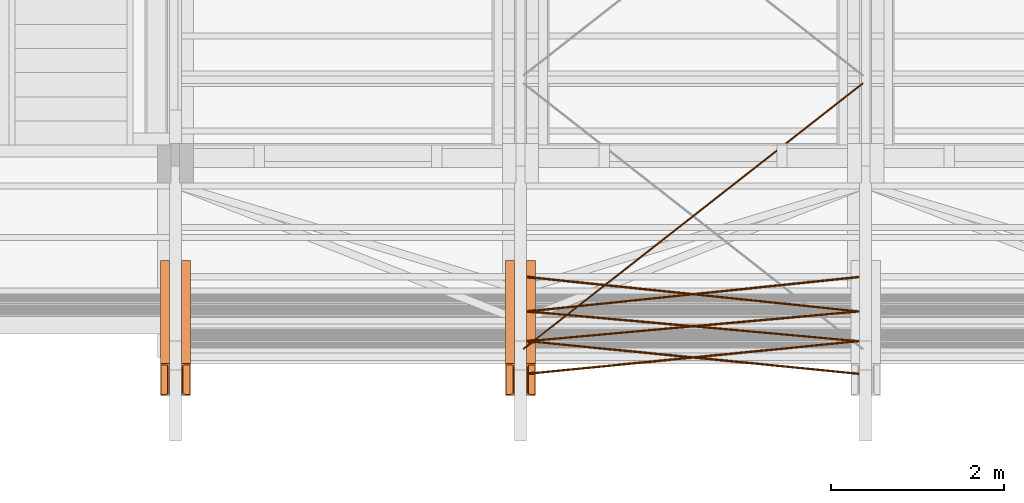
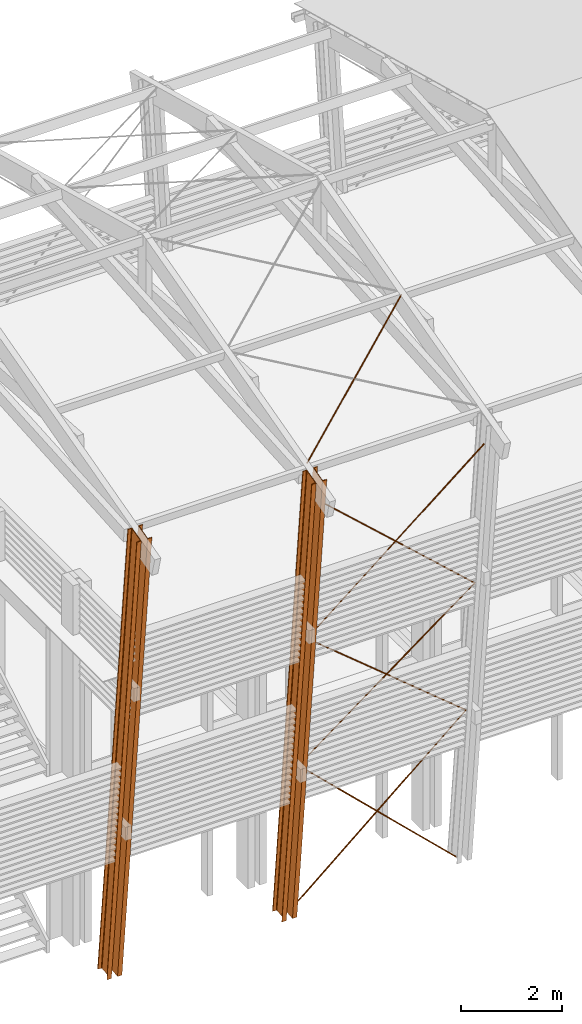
# One storey, part 35 of 48: 11 proxies.
"""IFC2X3 building model written with IfcOpenShell, lengths in metres."""

from ifc_helpers import new_model, si_unit, direction, frame, origin_with_axes, place, context, subcontext, project, spatial, faceted_brep, material, element, save


model = new_model("IFC2X3")

# Units and contexts
model_context = context("Model", 3, precision=1e-06, world=origin_with_axes(), true_north=direction((0.0, 1.0, 0.0)))
body_context = subcontext(model_context, "Body", "Model", "MODEL_VIEW")
ifc_project = project(units=[si_unit("LENGTHUNIT", "METRE"), si_unit("AREAUNIT", "SQUARE_METRE"), si_unit("VOLUMEUNIT", "CUBIC_METRE"), si_unit("PLANEANGLEUNIT", "RADIAN")], contexts=[model_context])

# Site, building, storey
site_placement = place(None, origin_with_axes())
site = spatial("IfcSite", under=ifc_project, at=site_placement, CompositionType="ELEMENT")
building_placement = place(site_placement, origin_with_axes())
building = spatial("IfcBuilding", under=site, at=building_placement, Name="Building 1", CompositionType="ELEMENT")
storey_placement = place(building_placement, origin_with_axes())
storey = spatial("IfcBuildingStorey", under=building, at=storey_placement, Name="Storey 1", CompositionType="ELEMENT", Elevation=0.0)

# Proxies
ifc_material = material(Name="Acier")
proxy_1_placement = place(storey_placement, frame((33.4057441, -195.1364145, 4.089), z_axis=(0.6523288, -0.0792259, 0.753784), x_axis=(-0.7579361, -0.0681869, 0.6487553)))
element("IfcBuildingElementProxy", 1, at=proxy_1_placement, inside=storey, material=ifc_material, Name="CVLP", context=body_context, shape_type="Brep", body=[
    faceted_brep([(5.0558353, -0.0093969, 0.0034202), (0.0, -0.01, 0.0), (5.0558353, -0.01, 0.0), (0.0, -0.0093969, -0.0034202), (5.0558353, -0.0093969, -0.0034202), (0.0, -0.0076604, -0.0064279), (5.0558353, -0.0076604, -0.0064279), (0.0, -0.005, -0.0086603), (5.0558353, -0.005, -0.0086603), (0.0, -0.0017365, -0.0098481), (5.0558353, -0.0017365, -0.0098481), (0.0, 0.0017365, -0.0098481), (5.0558353, 0.0017365, -0.0098481), (0.0, 0.005, -0.0086603), (5.0558353, 0.005, -0.0086603), (0.0, 0.0076604, -0.0064279), (5.0558353, 0.0076604, -0.0064279), (0.0, 0.0093969, -0.0034202), (5.0558353, 0.0093969, -0.0034202), (0.0, 0.01, 0.0), (5.0558353, 0.01, 0.0), (0.0, 0.0093969, 0.0034202), (5.0558353, 0.0093969, 0.0034202), (0.0, 0.0076604, 0.0064279), (5.0558353, 0.0076604, 0.0064279), (0.0, 0.005, 0.0086603), (5.0558353, 0.005, 0.0086603), (0.0, 0.0017365, 0.0098481), (5.0558353, 0.0017365, 0.0098481), (0.0, -0.0017365, 0.0098481), (5.0558353, -0.0017365, 0.0098481), (0.0, -0.005, 0.0086603), (5.0558353, -0.005, 0.0086603), (0.0, -0.0076604, 0.0064279), (5.0558353, -0.0076604, 0.0064279), (0.0, -0.0093969, 0.0034202)], [[[0, 1, 2]], [[2, 1, 3]], [[2, 3, 4]], [[4, 3, 5]], [[4, 5, 6]], [[6, 5, 7]], [[6, 7, 8]], [[8, 7, 9]], [[8, 9, 10]], [[10, 9, 11]], [[10, 11, 12]], [[12, 11, 13]], [[12, 13, 14]], [[14, 13, 15]], [[14, 15, 16]], [[16, 15, 17]], [[16, 17, 18]], [[18, 17, 19]], [[18, 19, 20]], [[20, 19, 21]], [[20, 21, 22]], [[22, 21, 23]], [[22, 23, 24]], [[24, 23, 25]], [[24, 25, 26]], [[26, 25, 27]], [[26, 27, 28]], [[28, 27, 29]], [[28, 29, 30]], [[30, 29, 31]], [[30, 31, 32]], [[32, 31, 33]], [[32, 33, 34]], [[34, 33, 35]], [[34, 35, 0]], [[0, 35, 1]], [[10, 12, 8]], [[8, 12, 14]], [[8, 14, 6]], [[6, 14, 16]], [[6, 16, 4]], [[4, 16, 18]], [[4, 18, 2]], [[2, 18, 20]], [[2, 20, 0]], [[0, 20, 22]], [[0, 22, 34]], [[34, 22, 24]], [[34, 24, 32]], [[32, 24, 26]], [[32, 26, 30]], [[30, 26, 28]], [[29, 27, 31]], [[31, 27, 25]], [[31, 25, 33]], [[33, 25, 23]], [[33, 23, 35]], [[35, 23, 21]], [[35, 21, 1]], [[1, 21, 19]], [[1, 19, 3]], [[3, 19, 17]], [[3, 17, 5]], [[5, 17, 15]], [[5, 15, 7]], [[7, 15, 13]], [[7, 13, 9]], [[9, 13, 11]]]),
])
proxy_2_placement = place(storey_placement, frame((33.4057433, -195.4811564, 7.369), z_axis=(0.6859491, -0.0760601, 0.7236634), x_axis=(-0.7276496, -0.0717012, 0.6821914)))
element("IfcBuildingElementProxy", 2, at=proxy_2_placement, inside=storey, material=ifc_material, Name="CVLP", context=body_context, shape_type="Brep", body=[
    faceted_brep([(5.2662712, 0.0093969, -0.0034202), (0.0, 0.01, 0.0), (5.2662712, 0.01, 0.0), (0.0, 0.0093969, 0.0034202), (5.2662712, 0.0093969, 0.0034202), (0.0, 0.0076604, 0.0064279), (5.2662712, 0.0076604, 0.0064279), (0.0, 0.005, 0.0086603), (5.2662712, 0.005, 0.0086603), (0.0, 0.0017365, 0.0098481), (5.2662712, 0.0017365, 0.0098481), (0.0, -0.0017365, 0.0098481), (5.2662712, -0.0017365, 0.0098481), (0.0, -0.005, 0.0086603), (5.2662712, -0.005, 0.0086603), (0.0, -0.0076604, 0.0064279), (5.2662712, -0.0076604, 0.0064279), (0.0, -0.0093969, 0.0034202), (5.2662712, -0.0093969, 0.0034202), (0.0, -0.01, 0.0), (5.2662712, -0.01, 0.0), (0.0, -0.0093969, -0.0034202), (5.2662712, -0.0093969, -0.0034202), (0.0, -0.0076604, -0.0064279), (5.2662712, -0.0076604, -0.0064279), (0.0, -0.005, -0.0086603), (5.2662712, -0.005, -0.0086603), (0.0, -0.0017365, -0.0098481), (5.2662712, -0.0017365, -0.0098481), (0.0, 0.0017365, -0.0098481), (5.2662712, 0.0017365, -0.0098481), (0.0, 0.005, -0.0086603), (5.2662712, 0.005, -0.0086603), (0.0, 0.0076604, -0.0064279), (5.2662712, 0.0076604, -0.0064279), (0.0, 0.0093969, -0.0034202)], [[[0, 1, 2]], [[2, 1, 3]], [[2, 3, 4]], [[4, 3, 5]], [[4, 5, 6]], [[6, 5, 7]], [[6, 7, 8]], [[8, 7, 9]], [[8, 9, 10]], [[10, 9, 11]], [[10, 11, 12]], [[12, 11, 13]], [[12, 13, 14]], [[14, 13, 15]], [[14, 15, 16]], [[16, 15, 17]], [[16, 17, 18]], [[18, 17, 19]], [[18, 19, 20]], [[20, 19, 21]], [[20, 21, 22]], [[22, 21, 23]], [[22, 23, 24]], [[24, 23, 25]], [[24, 25, 26]], [[26, 25, 27]], [[26, 27, 28]], [[28, 27, 29]], [[28, 29, 30]], [[30, 29, 31]], [[30, 31, 32]], [[32, 31, 33]], [[32, 33, 34]], [[34, 33, 35]], [[34, 35, 0]], [[0, 35, 1]], [[10, 12, 8]], [[8, 12, 14]], [[8, 14, 6]], [[6, 14, 16]], [[6, 16, 4]], [[4, 16, 18]], [[4, 18, 2]], [[2, 18, 20]], [[2, 20, 0]], [[0, 20, 22]], [[0, 22, 34]], [[34, 22, 24]], [[34, 24, 32]], [[32, 24, 26]], [[32, 26, 30]], [[30, 26, 28]], [[29, 27, 31]], [[31, 27, 25]], [[31, 25, 33]], [[33, 25, 23]], [[33, 23, 35]], [[35, 23, 21]], [[35, 21, 1]], [[1, 21, 19]], [[1, 19, 3]], [[3, 19, 17]], [[3, 17, 5]], [[5, 17, 15]], [[5, 15, 7]], [[7, 15, 13]], [[7, 13, 9]], [[9, 13, 11]]]),
])
proxy_3_placement = place(storey_placement, frame((29.5737441, -194.7381746, 0.3), z_axis=(-0.7050562, -0.0741265, 0.7052666), x_axis=(0.7091514, -0.0736984, 0.7011938)))
element("IfcBuildingElementProxy", 3, at=proxy_3_placement, inside=storey, material=ifc_material, Name="CVLP", context=body_context, shape_type="Brep", body=[
    faceted_brep([(5.4036414, -0.0093969, 0.0034202), (0.0, -0.01, 0.0), (5.4036414, -0.01, 0.0), (0.0, -0.0093969, -0.0034202), (5.4036414, -0.0093969, -0.0034202), (0.0, -0.0076604, -0.0064279), (5.4036414, -0.0076604, -0.0064279), (0.0, -0.005, -0.0086603), (5.4036414, -0.005, -0.0086603), (0.0, -0.0017365, -0.0098481), (5.4036414, -0.0017365, -0.0098481), (0.0, 0.0017365, -0.0098481), (5.4036414, 0.0017365, -0.0098481), (0.0, 0.005, -0.0086603), (5.4036414, 0.005, -0.0086603), (0.0, 0.0076604, -0.0064279), (5.4036414, 0.0076604, -0.0064279), (0.0, 0.0093969, -0.0034202), (5.4036414, 0.0093969, -0.0034202), (0.0, 0.01, 0.0), (5.4036414, 0.01, 0.0), (0.0, 0.0093969, 0.0034202), (5.4036414, 0.0093969, 0.0034202), (0.0, 0.0076604, 0.0064279), (5.4036414, 0.0076604, 0.0064279), (0.0, 0.005, 0.0086603), (5.4036414, 0.005, 0.0086603), (0.0, 0.0017365, 0.0098481), (5.4036414, 0.0017365, 0.0098481), (0.0, -0.0017365, 0.0098481), (5.4036414, -0.0017365, 0.0098481), (0.0, -0.005, 0.0086603), (5.4036414, -0.005, 0.0086603), (0.0, -0.0076604, 0.0064279), (5.4036414, -0.0076604, 0.0064279), (0.0, -0.0093969, 0.0034202)], [[[0, 1, 2]], [[2, 1, 3]], [[2, 3, 4]], [[4, 3, 5]], [[4, 5, 6]], [[6, 5, 7]], [[6, 7, 8]], [[8, 7, 9]], [[8, 9, 10]], [[10, 9, 11]], [[10, 11, 12]], [[12, 11, 13]], [[12, 13, 14]], [[14, 13, 15]], [[14, 15, 16]], [[16, 15, 17]], [[16, 17, 18]], [[18, 17, 19]], [[18, 19, 20]], [[20, 19, 21]], [[20, 21, 22]], [[22, 21, 23]], [[22, 23, 24]], [[24, 23, 25]], [[24, 25, 26]], [[26, 25, 27]], [[26, 27, 28]], [[28, 27, 29]], [[28, 29, 30]], [[30, 29, 31]], [[30, 31, 32]], [[32, 31, 33]], [[32, 33, 34]], [[34, 33, 35]], [[34, 35, 0]], [[0, 35, 1]], [[10, 12, 8]], [[8, 12, 14]], [[8, 14, 6]], [[6, 14, 16]], [[6, 16, 4]], [[4, 16, 18]], [[4, 18, 2]], [[2, 18, 20]], [[2, 20, 0]], [[0, 20, 22]], [[0, 22, 34]], [[34, 22, 24]], [[34, 24, 32]], [[32, 24, 26]], [[32, 26, 30]], [[30, 26, 28]], [[29, 27, 31]], [[31, 27, 25]], [[31, 25, 33]], [[33, 25, 23]], [[33, 23, 35]], [[35, 23, 21]], [[35, 21, 1]], [[1, 21, 19]], [[1, 19, 3]], [[3, 19, 17]], [[3, 17, 5]], [[5, 17, 15]], [[5, 15, 7]], [[7, 15, 13]], [[7, 13, 9]], [[9, 13, 11]]]),
])
proxy_4_placement = place(storey_placement, frame((33.4057433, -194.7381746, 0.3), z_axis=(0.7050562, -0.0741265, 0.7052666), x_axis=(-0.7091514, -0.0736984, 0.7011938)))
element("IfcBuildingElementProxy", 4, at=proxy_4_placement, inside=storey, material=ifc_material, Name="CVLP", context=body_context, shape_type="Brep", body=[
    faceted_brep([(5.4036414, 0.0093969, -0.0034202), (0.0, 0.01, 0.0), (5.4036414, 0.01, 0.0), (0.0, 0.0093969, 0.0034202), (5.4036414, 0.0093969, 0.0034202), (0.0, 0.0076604, 0.0064279), (5.4036414, 0.0076604, 0.0064279), (0.0, 0.005, 0.0086603), (5.4036414, 0.005, 0.0086603), (0.0, 0.0017365, 0.0098481), (5.4036414, 0.0017365, 0.0098481), (0.0, -0.0017365, 0.0098481), (5.4036414, -0.0017365, 0.0098481), (0.0, -0.005, 0.0086603), (5.4036414, -0.005, 0.0086603), (0.0, -0.0076604, 0.0064279), (5.4036414, -0.0076604, 0.0064279), (0.0, -0.0093969, 0.0034202), (5.4036414, -0.0093969, 0.0034202), (0.0, -0.01, 0.0), (5.4036414, -0.01, 0.0), (0.0, -0.0093969, -0.0034202), (5.4036414, -0.0093969, -0.0034202), (0.0, -0.0076604, -0.0064279), (5.4036414, -0.0076604, -0.0064279), (0.0, -0.005, -0.0086603), (5.4036414, -0.005, -0.0086603), (0.0, -0.0017365, -0.0098481), (5.4036414, -0.0017365, -0.0098481), (0.0, 0.0017365, -0.0098481), (5.4036414, 0.0017365, -0.0098481), (0.0, 0.005, -0.0086603), (5.4036414, 0.005, -0.0086603), (0.0, 0.0076604, -0.0064279), (5.4036414, 0.0076604, -0.0064279), (0.0, 0.0093969, -0.0034202)], [[[0, 1, 2]], [[2, 1, 3]], [[2, 3, 4]], [[4, 3, 5]], [[4, 5, 6]], [[6, 5, 7]], [[6, 7, 8]], [[8, 7, 9]], [[8, 9, 10]], [[10, 9, 11]], [[10, 11, 12]], [[12, 11, 13]], [[12, 13, 14]], [[14, 13, 15]], [[14, 15, 16]], [[16, 15, 17]], [[16, 17, 18]], [[18, 17, 19]], [[18, 19, 20]], [[20, 19, 21]], [[20, 21, 22]], [[22, 21, 23]], [[22, 23, 24]], [[24, 23, 25]], [[24, 25, 26]], [[26, 25, 27]], [[26, 27, 28]], [[28, 27, 29]], [[28, 29, 30]], [[30, 29, 31]], [[30, 31, 32]], [[32, 31, 33]], [[32, 33, 34]], [[34, 33, 35]], [[34, 35, 0]], [[0, 35, 1]], [[10, 12, 8]], [[8, 12, 14]], [[8, 14, 6]], [[6, 14, 16]], [[6, 16, 4]], [[4, 16, 18]], [[4, 18, 2]], [[2, 18, 20]], [[2, 20, 0]], [[0, 20, 22]], [[0, 22, 34]], [[34, 22, 24]], [[34, 24, 32]], [[32, 24, 26]], [[32, 26, 30]], [[30, 26, 28]], [[29, 27, 31]], [[31, 27, 25]], [[31, 25, 33]], [[33, 25, 23]], [[33, 23, 35]], [[35, 23, 21]], [[35, 21, 1]], [[1, 21, 19]], [[1, 19, 3]], [[3, 19, 17]], [[3, 17, 5]], [[5, 17, 15]], [[5, 15, 7]], [[7, 15, 13]], [[7, 13, 9]], [[9, 13, 11]]]),
])
proxy_5_placement = place(storey_placement, frame((29.5737441, -195.4811564, 7.369), z_axis=(-0.6859491, -0.0760601, 0.7236634), x_axis=(0.7276496, -0.0717012, 0.6821914)))
element("IfcBuildingElementProxy", 5, at=proxy_5_placement, inside=storey, material=ifc_material, Name="CVLP", context=body_context, shape_type="Brep", body=[
    faceted_brep([(5.2662712, -0.0093969, 0.0034202), (0.0, -0.01, 0.0), (5.2662712, -0.01, 0.0), (0.0, -0.0093969, -0.0034202), (5.2662712, -0.0093969, -0.0034202), (0.0, -0.0076604, -0.0064279), (5.2662712, -0.0076604, -0.0064279), (0.0, -0.005, -0.0086603), (5.2662712, -0.005, -0.0086603), (0.0, -0.0017365, -0.0098481), (5.2662712, -0.0017365, -0.0098481), (0.0, 0.0017365, -0.0098481), (5.2662712, 0.0017365, -0.0098481), (0.0, 0.005, -0.0086603), (5.2662712, 0.005, -0.0086603), (0.0, 0.0076604, -0.0064279), (5.2662712, 0.0076604, -0.0064279), (0.0, 0.0093969, -0.0034202), (5.2662712, 0.0093969, -0.0034202), (0.0, 0.01, 0.0), (5.2662712, 0.01, 0.0), (0.0, 0.0093969, 0.0034202), (5.2662712, 0.0093969, 0.0034202), (0.0, 0.0076604, 0.0064279), (5.2662712, 0.0076604, 0.0064279), (0.0, 0.005, 0.0086603), (5.2662712, 0.005, 0.0086603), (0.0, 0.0017365, 0.0098481), (5.2662712, 0.0017365, 0.0098481), (0.0, -0.0017365, 0.0098481), (5.2662712, -0.0017365, 0.0098481), (0.0, -0.005, 0.0086603), (5.2662712, -0.005, 0.0086603), (0.0, -0.0076604, 0.0064279), (5.2662712, -0.0076604, 0.0064279), (0.0, -0.0093969, 0.0034202)], [[[0, 1, 2]], [[2, 1, 3]], [[2, 3, 4]], [[4, 3, 5]], [[4, 5, 6]], [[6, 5, 7]], [[6, 7, 8]], [[8, 7, 9]], [[8, 9, 10]], [[10, 9, 11]], [[10, 11, 12]], [[12, 11, 13]], [[12, 13, 14]], [[14, 13, 15]], [[14, 15, 16]], [[16, 15, 17]], [[16, 17, 18]], [[18, 17, 19]], [[18, 19, 20]], [[20, 19, 21]], [[20, 21, 22]], [[22, 21, 23]], [[22, 23, 24]], [[24, 23, 25]], [[24, 25, 26]], [[26, 25, 27]], [[26, 27, 28]], [[28, 27, 29]], [[28, 29, 30]], [[30, 29, 31]], [[30, 31, 32]], [[32, 31, 33]], [[32, 33, 34]], [[34, 33, 35]], [[34, 35, 0]], [[0, 35, 1]], [[10, 12, 8]], [[8, 12, 14]], [[8, 14, 6]], [[6, 14, 16]], [[6, 16, 4]], [[4, 16, 18]], [[4, 18, 2]], [[2, 18, 20]], [[2, 20, 0]], [[0, 20, 22]], [[0, 22, 34]], [[34, 22, 24]], [[34, 24, 32]], [[32, 24, 26]], [[32, 26, 30]], [[30, 26, 28]], [[29, 27, 31]], [[31, 27, 25]], [[31, 25, 33]], [[33, 25, 23]], [[33, 23, 35]], [[35, 23, 21]], [[35, 21, 1]], [[1, 21, 19]], [[1, 19, 3]], [[3, 19, 17]], [[3, 17, 5]], [[5, 17, 15]], [[5, 15, 7]], [[7, 15, 13]], [[7, 13, 9]], [[9, 13, 11]]]),
])
proxy_6_placement = place(storey_placement, frame((29.5737433, -195.1364145, 4.089), z_axis=(-0.6523288, -0.0792259, 0.753784), x_axis=(0.7579361, -0.0681869, 0.6487553)))
element("IfcBuildingElementProxy", 6, at=proxy_6_placement, inside=storey, material=ifc_material, Name="CVLP", context=body_context, shape_type="Brep", body=[
    faceted_brep([(5.0558353, 0.0093969, -0.0034202), (0.0, 0.01, 0.0), (5.0558353, 0.01, 0.0), (0.0, 0.0093969, 0.0034202), (5.0558353, 0.0093969, 0.0034202), (0.0, 0.0076604, 0.0064279), (5.0558353, 0.0076604, 0.0064279), (0.0, 0.005, 0.0086603), (5.0558353, 0.005, 0.0086603), (0.0, 0.0017365, 0.0098481), (5.0558353, 0.0017365, 0.0098481), (0.0, -0.0017365, 0.0098481), (5.0558353, -0.0017365, 0.0098481), (0.0, -0.005, 0.0086603), (5.0558353, -0.005, 0.0086603), (0.0, -0.0076604, 0.0064279), (5.0558353, -0.0076604, 0.0064279), (0.0, -0.0093969, 0.0034202), (5.0558353, -0.0093969, 0.0034202), (0.0, -0.01, 0.0), (5.0558353, -0.01, 0.0), (0.0, -0.0093969, -0.0034202), (5.0558353, -0.0093969, -0.0034202), (0.0, -0.0076604, -0.0064279), (5.0558353, -0.0076604, -0.0064279), (0.0, -0.005, -0.0086603), (5.0558353, -0.005, -0.0086603), (0.0, -0.0017365, -0.0098481), (5.0558353, -0.0017365, -0.0098481), (0.0, 0.0017365, -0.0098481), (5.0558353, 0.0017365, -0.0098481), (0.0, 0.005, -0.0086603), (5.0558353, 0.005, -0.0086603), (0.0, 0.0076604, -0.0064279), (5.0558353, 0.0076604, -0.0064279), (0.0, 0.0093969, -0.0034202)], [[[0, 1, 2]], [[2, 1, 3]], [[2, 3, 4]], [[4, 3, 5]], [[4, 5, 6]], [[6, 5, 7]], [[6, 7, 8]], [[8, 7, 9]], [[8, 9, 10]], [[10, 9, 11]], [[10, 11, 12]], [[12, 11, 13]], [[12, 13, 14]], [[14, 13, 15]], [[14, 15, 16]], [[16, 15, 17]], [[16, 17, 18]], [[18, 17, 19]], [[18, 19, 20]], [[20, 19, 21]], [[20, 21, 22]], [[22, 21, 23]], [[22, 23, 24]], [[24, 23, 25]], [[24, 25, 26]], [[26, 25, 27]], [[26, 27, 28]], [[28, 27, 29]], [[28, 29, 30]], [[30, 29, 31]], [[30, 31, 32]], [[32, 31, 33]], [[32, 33, 34]], [[34, 33, 35]], [[34, 35, 0]], [[0, 35, 1]], [[10, 12, 8]], [[8, 12, 14]], [[8, 14, 6]], [[6, 14, 16]], [[6, 16, 4]], [[4, 16, 18]], [[4, 18, 2]], [[2, 18, 20]], [[2, 20, 0]], [[0, 20, 22]], [[0, 22, 34]], [[34, 22, 24]], [[34, 24, 32]], [[32, 24, 26]], [[32, 26, 30]], [[30, 26, 28]], [[29, 27, 31]], [[31, 27, 25]], [[31, 25, 33]], [[33, 25, 23]], [[33, 23, 35]], [[35, 23, 21]], [[35, 21, 1]], [[1, 21, 19]], [[1, 19, 3]], [[3, 19, 17]], [[3, 17, 5]], [[5, 17, 15]], [[5, 15, 7]], [[7, 15, 13]], [[7, 13, 9]], [[9, 13, 11]]]),
])
proxy_7_placement = place(storey_placement, frame((29.5219768, -195.5718121, 11.682812), z_axis=(-0.6294478, 0.7505657, 0.2011135), x_axis=(0.7770428, 0.6079999, 0.1629131)))
element("IfcBuildingElementProxy", 7, at=proxy_7_placement, inside=storey, material=ifc_material, Name="CVT", context=body_context, shape_type="Brep", body=[
    faceted_brep([(5.0647581, -0.0093969, 0.0034202), (0.0, -0.01, 0.0), (5.0647581, -0.01, 0.0), (0.0, -0.0093969, -0.0034202), (5.0647581, -0.0093969, -0.0034202), (0.0, -0.0076604, -0.0064279), (5.0647581, -0.0076604, -0.0064279), (0.0, -0.005, -0.0086603), (5.0647581, -0.005, -0.0086603), (0.0, -0.0017365, -0.0098481), (5.0647581, -0.0017365, -0.0098481), (0.0, 0.0017365, -0.0098481), (5.0647581, 0.0017365, -0.0098481), (0.0, 0.005, -0.0086603), (5.0647581, 0.005, -0.0086603), (0.0, 0.0076604, -0.0064279), (5.0647581, 0.0076604, -0.0064279), (0.0, 0.0093969, -0.0034202), (5.0647581, 0.0093969, -0.0034202), (0.0, 0.01, 0.0), (5.0647581, 0.01, 0.0), (0.0, 0.0093969, 0.0034202), (5.0647581, 0.0093969, 0.0034202), (0.0, 0.0076604, 0.0064279), (5.0647581, 0.0076604, 0.0064279), (0.0, 0.005, 0.0086603), (5.0647581, 0.005, 0.0086603), (0.0, 0.0017365, 0.0098481), (5.0647581, 0.0017365, 0.0098481), (0.0, -0.0017365, 0.0098481), (5.0647581, -0.0017365, 0.0098481), (0.0, -0.005, 0.0086603), (5.0647581, -0.005, 0.0086603), (0.0, -0.0076604, 0.0064279), (5.0647581, -0.0076604, 0.0064279), (0.0, -0.0093969, 0.0034202)], [[[0, 1, 2]], [[2, 1, 3]], [[2, 3, 4]], [[4, 3, 5]], [[4, 5, 6]], [[6, 5, 7]], [[6, 7, 8]], [[8, 7, 9]], [[8, 9, 10]], [[10, 9, 11]], [[10, 11, 12]], [[12, 11, 13]], [[12, 13, 14]], [[14, 13, 15]], [[14, 15, 16]], [[16, 15, 17]], [[16, 17, 18]], [[18, 17, 19]], [[18, 19, 20]], [[20, 19, 21]], [[20, 21, 22]], [[22, 21, 23]], [[22, 23, 24]], [[24, 23, 25]], [[24, 25, 26]], [[26, 25, 27]], [[26, 27, 28]], [[28, 27, 29]], [[28, 29, 30]], [[30, 29, 31]], [[30, 31, 32]], [[32, 31, 33]], [[32, 33, 34]], [[34, 33, 35]], [[34, 35, 0]], [[0, 35, 1]], [[10, 12, 8]], [[8, 12, 14]], [[8, 14, 6]], [[6, 14, 16]], [[6, 16, 4]], [[4, 16, 18]], [[4, 18, 2]], [[2, 18, 20]], [[2, 20, 0]], [[0, 20, 22]], [[0, 22, 34]], [[34, 22, 24]], [[34, 24, 32]], [[32, 24, 26]], [[32, 26, 30]], [[30, 26, 28]], [[29, 27, 31]], [[31, 27, 25]], [[31, 25, 33]], [[33, 25, 23]], [[33, 23, 35]], [[35, 23, 21]], [[35, 21, 1]], [[1, 21, 19]], [[1, 19, 3]], [[3, 19, 17]], [[3, 17, 5]], [[5, 17, 15]], [[5, 15, 7]], [[7, 15, 13]], [[7, 13, 9]], [[9, 13, 11]]]),
])
proxy_8_placement = place(storey_placement, frame((29.6107437, -195.9301471, 11.6408612), z_axis=(0.0, 0.9945219, 0.1045285), x_axis=(0.0, 0.1045285, -0.9945219)))
element("IfcBuildingElementProxy", 8, at=proxy_8_placement, inside=storey, material=ifc_material, Name="Poteau", context=body_context, shape_type="Brep", body=[
    faceted_brep([(0.0556479, 0.0367655, -0.161347), (0.0548889, 0.0375, -0.156555), (0.0601861, 0.051, -0.19), (0.0052972, 0.0375, 0.156555), (0.0, 0.051, 0.19), (0.0045382, 0.0367655, 0.161347), (0.0038489, 0.0346296, 0.165699), (0.0592057, -0.051, -0.18381), (0.0579402, -0.0433995, -0.17582), (0.0601861, -0.051, -0.19), (0.0574199, 0.022299, -0.172535), (0.0572658, 0.0270483, -0.1715622), (0.0568935, 0.0312883, -0.1692116), (0.0588262, -0.0506328, -0.181414), (0.0584816, -0.0495648, -0.179238), (0.0582034, -0.0478941, -0.1774817), (0.0580172, -0.0457742, -0.1763064), (0.0563372, 0.0346296, -0.165699), (0.0032926, 0.0312883, 0.1692116), (0.0029203, 0.0270483, 0.1715622), (0.0027662, 0.022299, 0.172535), (0.0, -0.051, 0.19), (0.0022459, -0.0433995, 0.17582), (0.0009804, -0.051, 0.18381), (0.0013599, -0.0506328, 0.181414), (0.0021689, -0.0457742, 0.1763064), (0.0019827, -0.0478941, 0.1774817), (0.0017045, -0.0495648, 0.179238), (11.420672, 0.0375, -0.156555), (11.420672, 0.0367655, -0.161347), (11.420672, 0.0346296, -0.165699), (11.420672, 0.0312883, -0.1692116), (11.420672, 0.0270483, -0.1715622), (11.420672, 0.022299, -0.172535), (11.420672, -0.0433995, -0.17582), (11.420672, -0.0457742, -0.1763064), (11.420672, -0.0478941, -0.1774817), (11.420672, -0.0495648, -0.179238), (11.420672, -0.0506328, -0.181414), (11.420672, -0.051, -0.18381), (11.420672, -0.051, -0.19), (11.420672, 0.051, -0.19), (11.420672, 0.051, 0.19), (11.420672, -0.051, 0.19), (11.420672, -0.051, 0.18381), (11.420672, -0.0506328, 0.181414), (11.420672, -0.0495648, 0.179238), (11.420672, -0.0478941, 0.1774817), (11.420672, -0.0457742, 0.1763064), (11.420672, -0.0433995, 0.17582), (11.420672, 0.022299, 0.172535), (11.420672, 0.0270483, 0.1715622), (11.420672, 0.0312883, 0.1692116), (11.420672, 0.0346296, 0.165699), (11.420672, 0.0367655, 0.161347), (11.420672, 0.0375, 0.156555)], [[[0, 1, 2]], [[2, 1, 3]], [[2, 3, 4]], [[4, 3, 5]], [[4, 5, 6]], [[7, 8, 9]], [[9, 8, 10]], [[9, 10, 2]], [[2, 10, 11]], [[2, 11, 12]], [[7, 13, 8]], [[8, 13, 14]], [[8, 14, 15]], [[15, 16, 8]], [[12, 17, 2]], [[2, 17, 0]], [[6, 18, 4]], [[4, 18, 19]], [[4, 19, 20]], [[4, 20, 21]], [[21, 20, 22]], [[21, 22, 23]], [[23, 22, 24]], [[25, 26, 22]], [[22, 26, 27]], [[22, 27, 24]], [[1, 0, 28]], [[28, 0, 29]], [[0, 17, 29]], [[29, 17, 30]], [[17, 12, 30]], [[30, 12, 31]], [[12, 11, 31]], [[31, 11, 32]], [[11, 10, 32]], [[32, 10, 33]], [[10, 8, 33]], [[33, 8, 34]], [[8, 16, 34]], [[34, 16, 35]], [[16, 15, 35]], [[35, 15, 36]], [[15, 14, 36]], [[36, 14, 37]], [[14, 13, 37]], [[37, 13, 38]], [[13, 7, 38]], [[38, 7, 39]], [[7, 9, 39]], [[39, 9, 40]], [[9, 2, 40]], [[40, 2, 41]], [[4, 42, 2]], [[2, 42, 41]], [[43, 42, 21]], [[21, 42, 4]], [[21, 23, 43]], [[43, 23, 44]], [[23, 24, 44]], [[44, 24, 45]], [[24, 27, 45]], [[45, 27, 46]], [[27, 26, 46]], [[46, 26, 47]], [[26, 25, 47]], [[47, 25, 48]], [[25, 22, 48]], [[48, 22, 49]], [[22, 20, 49]], [[49, 20, 50]], [[20, 19, 50]], [[50, 19, 51]], [[19, 18, 51]], [[51, 18, 52]], [[18, 6, 52]], [[52, 6, 53]], [[6, 5, 53]], [[53, 5, 54]], [[5, 3, 54]], [[54, 3, 55]], [[3, 1, 55]], [[55, 1, 28]], [[53, 54, 42]], [[42, 54, 55]], [[42, 55, 41]], [[41, 55, 28]], [[41, 28, 29]], [[44, 49, 43]], [[43, 49, 50]], [[43, 50, 42]], [[42, 50, 51]], [[42, 51, 52]], [[44, 45, 49]], [[49, 45, 46]], [[49, 46, 47]], [[47, 48, 49]], [[52, 53, 42]], [[29, 30, 41]], [[41, 30, 31]], [[41, 31, 32]], [[32, 33, 41]], [[41, 33, 40]], [[33, 34, 40]], [[40, 34, 39]], [[34, 35, 39]], [[39, 35, 36]], [[39, 36, 37]], [[37, 38, 39]]]),
])
proxy_9_placement = place(storey_placement, frame((25.6107437, -195.9301471, 11.6408612), z_axis=(0.0, 0.9945219, 0.1045285), x_axis=(0.0, 0.1045285, -0.9945219)))
element("IfcBuildingElementProxy", 9, at=proxy_9_placement, inside=storey, material=ifc_material, Name="Poteau", context=body_context, shape_type="Brep", body=[
    faceted_brep([(0.0556479, 0.0367655, -0.161347), (0.0548889, 0.0375, -0.156555), (0.0601861, 0.051, -0.19), (0.0052972, 0.0375, 0.156555), (0.0, 0.051, 0.19), (0.0045382, 0.0367655, 0.161347), (0.0038489, 0.0346296, 0.165699), (0.0592057, -0.051, -0.18381), (0.0579402, -0.0433995, -0.17582), (0.0601861, -0.051, -0.19), (0.0574199, 0.022299, -0.172535), (0.0572658, 0.0270483, -0.1715622), (0.0568935, 0.0312883, -0.1692116), (0.0588262, -0.0506328, -0.181414), (0.0584816, -0.0495648, -0.179238), (0.0582034, -0.0478941, -0.1774817), (0.0580172, -0.0457742, -0.1763064), (0.0563372, 0.0346296, -0.165699), (0.0032926, 0.0312883, 0.1692116), (0.0029203, 0.0270483, 0.1715622), (0.0027662, 0.022299, 0.172535), (0.0, -0.051, 0.19), (0.0022459, -0.0433995, 0.17582), (0.0009804, -0.051, 0.18381), (0.0013599, -0.0506328, 0.181414), (0.0021689, -0.0457742, 0.1763064), (0.0019827, -0.0478941, 0.1774817), (0.0017045, -0.0495648, 0.179238), (11.420672, 0.0375, -0.156555), (11.420672, 0.0367655, -0.161347), (11.420672, 0.0346296, -0.165699), (11.420672, 0.0312883, -0.1692116), (11.420672, 0.0270483, -0.1715622), (11.420672, 0.022299, -0.172535), (11.420672, -0.0433995, -0.17582), (11.420672, -0.0457742, -0.1763064), (11.420672, -0.0478941, -0.1774817), (11.420672, -0.0495648, -0.179238), (11.420672, -0.0506328, -0.181414), (11.420672, -0.051, -0.18381), (11.420672, -0.051, -0.19), (11.420672, 0.051, -0.19), (11.420672, 0.051, 0.19), (11.420672, -0.051, 0.19), (11.420672, -0.051, 0.18381), (11.420672, -0.0506328, 0.181414), (11.420672, -0.0495648, 0.179238), (11.420672, -0.0478941, 0.1774817), (11.420672, -0.0457742, 0.1763064), (11.420672, -0.0433995, 0.17582), (11.420672, 0.022299, 0.172535), (11.420672, 0.0270483, 0.1715622), (11.420672, 0.0312883, 0.1692116), (11.420672, 0.0346296, 0.165699), (11.420672, 0.0367655, 0.161347), (11.420672, 0.0375, 0.156555)], [[[0, 1, 2]], [[2, 1, 3]], [[2, 3, 4]], [[4, 3, 5]], [[4, 5, 6]], [[7, 8, 9]], [[9, 8, 10]], [[9, 10, 2]], [[2, 10, 11]], [[2, 11, 12]], [[7, 13, 8]], [[8, 13, 14]], [[8, 14, 15]], [[15, 16, 8]], [[12, 17, 2]], [[2, 17, 0]], [[6, 18, 4]], [[4, 18, 19]], [[4, 19, 20]], [[4, 20, 21]], [[21, 20, 22]], [[21, 22, 23]], [[23, 22, 24]], [[25, 26, 22]], [[22, 26, 27]], [[22, 27, 24]], [[1, 0, 28]], [[28, 0, 29]], [[0, 17, 29]], [[29, 17, 30]], [[17, 12, 30]], [[30, 12, 31]], [[12, 11, 31]], [[31, 11, 32]], [[11, 10, 32]], [[32, 10, 33]], [[10, 8, 33]], [[33, 8, 34]], [[8, 16, 34]], [[34, 16, 35]], [[16, 15, 35]], [[35, 15, 36]], [[15, 14, 36]], [[36, 14, 37]], [[14, 13, 37]], [[37, 13, 38]], [[13, 7, 38]], [[38, 7, 39]], [[7, 9, 39]], [[39, 9, 40]], [[9, 2, 40]], [[40, 2, 41]], [[4, 42, 2]], [[2, 42, 41]], [[43, 42, 21]], [[21, 42, 4]], [[21, 23, 43]], [[43, 23, 44]], [[23, 24, 44]], [[44, 24, 45]], [[24, 27, 45]], [[45, 27, 46]], [[27, 26, 46]], [[46, 26, 47]], [[26, 25, 47]], [[47, 25, 48]], [[25, 22, 48]], [[48, 22, 49]], [[22, 20, 49]], [[49, 20, 50]], [[20, 19, 50]], [[50, 19, 51]], [[19, 18, 51]], [[51, 18, 52]], [[18, 6, 52]], [[52, 6, 53]], [[6, 5, 53]], [[53, 5, 54]], [[5, 3, 54]], [[54, 3, 55]], [[3, 1, 55]], [[55, 1, 28]], [[53, 54, 42]], [[42, 54, 55]], [[42, 55, 41]], [[41, 55, 28]], [[41, 28, 29]], [[44, 49, 43]], [[43, 49, 50]], [[43, 50, 42]], [[42, 50, 51]], [[42, 51, 52]], [[44, 45, 49]], [[49, 45, 46]], [[49, 46, 47]], [[47, 48, 49]], [[52, 53, 42]], [[29, 30, 41]], [[41, 30, 31]], [[41, 31, 32]], [[32, 33, 41]], [[41, 33, 40]], [[33, 34, 40]], [[40, 34, 39]], [[34, 35, 39]], [[39, 35, 36]], [[39, 36, 37]], [[37, 38, 39]]]),
])
proxy_10_placement = place(storey_placement, frame((29.3687437, -195.9301471, 11.6408612), z_axis=(0.0, 0.9945219, 0.1045285), x_axis=(0.0, 0.1045285, -0.9945219)))
element("IfcBuildingElementProxy", 10, at=proxy_10_placement, inside=storey, material=ifc_material, Name="Poteau", context=body_context, shape_type="Brep", body=[
    faceted_brep([(0.0588262, 0.0506328, -0.181414), (0.0592057, 0.051, -0.18381), (0.0579402, 0.0433995, -0.17582), (0.0601861, 0.051, -0.19), (0.0574199, -0.022299, -0.172535), (0.0601861, -0.051, -0.19), (0.0572658, -0.0270483, -0.1715622), (0.0568935, -0.0312883, -0.1692116), (0.0038489, -0.0346296, 0.165699), (0.0045382, -0.0367655, 0.161347), (0.0, -0.051, 0.19), (0.0052972, -0.0375, 0.156555), (0.0548889, -0.0375, -0.156555), (0.0556479, -0.0367655, -0.161347), (0.0009804, 0.051, 0.18381), (0.0022459, 0.0433995, 0.17582), (0.0, 0.051, 0.19), (0.0027662, -0.022299, 0.172535), (0.0029203, -0.0270483, 0.1715622), (0.0032926, -0.0312883, 0.1692116), (0.0013599, 0.0506328, 0.181414), (0.0017045, 0.0495648, 0.179238), (0.0019827, 0.0478941, 0.1774817), (0.0021689, 0.0457742, 0.1763064), (0.0563372, -0.0346296, -0.165699), (0.0580172, 0.0457742, -0.1763064), (0.0582034, 0.0478941, -0.1774817), (0.0584816, 0.0495648, -0.179238), (11.420672, 0.0433995, 0.17582), (11.420672, 0.0457742, 0.1763064), (11.420672, 0.0478941, 0.1774817), (11.420672, 0.0495648, 0.179238), (11.420672, 0.0506328, 0.181414), (11.420672, 0.051, 0.18381), (11.420672, 0.051, 0.19), (11.420672, -0.051, 0.19), (11.420672, -0.051, -0.19), (11.420672, 0.051, -0.19), (11.420672, 0.051, -0.18381), (11.420672, 0.0506328, -0.181414), (11.420672, 0.0495648, -0.179238), (11.420672, 0.0478941, -0.1774817), (11.420672, 0.0457742, -0.1763064), (11.420672, 0.0433995, -0.17582), (11.420672, -0.022299, -0.172535), (11.420672, -0.0270483, -0.1715622), (11.420672, -0.0312883, -0.1692116), (11.420672, -0.0346296, -0.165699), (11.420672, -0.0367655, -0.161347), (11.420672, -0.0375, -0.156555), (11.420672, -0.0375, 0.156555), (11.420672, -0.0367655, 0.161347), (11.420672, -0.0346296, 0.165699), (11.420672, -0.0312883, 0.1692116), (11.420672, -0.0270483, 0.1715622), (11.420672, -0.022299, 0.172535)], [[[0, 1, 2]], [[2, 1, 3]], [[2, 3, 4]], [[4, 3, 5]], [[4, 5, 6]], [[6, 5, 7]], [[8, 9, 10]], [[10, 9, 11]], [[10, 11, 5]], [[5, 11, 12]], [[5, 12, 13]], [[14, 15, 16]], [[16, 15, 17]], [[16, 17, 10]], [[10, 17, 18]], [[10, 18, 19]], [[14, 20, 15]], [[15, 20, 21]], [[15, 21, 22]], [[22, 23, 15]], [[19, 8, 10]], [[13, 24, 5]], [[5, 24, 7]], [[25, 26, 2]], [[2, 26, 27]], [[2, 27, 0]], [[15, 23, 28]], [[28, 23, 29]], [[23, 22, 29]], [[29, 22, 30]], [[22, 21, 30]], [[30, 21, 31]], [[21, 20, 31]], [[31, 20, 32]], [[20, 14, 32]], [[32, 14, 33]], [[16, 34, 14]], [[14, 34, 33]], [[10, 5, 35]], [[35, 5, 36]], [[5, 3, 36]], [[36, 3, 37]], [[1, 38, 3]], [[3, 38, 37]], [[1, 0, 38]], [[38, 0, 39]], [[0, 27, 39]], [[39, 27, 40]], [[27, 26, 40]], [[40, 26, 41]], [[26, 25, 41]], [[41, 25, 42]], [[25, 2, 42]], [[42, 2, 43]], [[4, 44, 2]], [[2, 44, 43]], [[4, 6, 44]], [[44, 6, 45]], [[6, 7, 45]], [[45, 7, 46]], [[7, 24, 46]], [[46, 24, 47]], [[24, 13, 47]], [[47, 13, 48]], [[13, 12, 48]], [[48, 12, 49]], [[11, 50, 12]], [[12, 50, 49]], [[11, 9, 50]], [[50, 9, 51]], [[9, 8, 51]], [[51, 8, 52]], [[8, 19, 52]], [[52, 19, 53]], [[19, 18, 53]], [[53, 18, 54]], [[18, 17, 54]], [[54, 17, 55]], [[15, 28, 17]], [[17, 28, 55]], [[35, 34, 10]], [[10, 34, 16]], [[48, 49, 36]], [[36, 49, 50]], [[36, 50, 35]], [[35, 50, 51]], [[35, 51, 52]], [[41, 42, 38]], [[38, 42, 43]], [[38, 43, 37]], [[37, 43, 44]], [[37, 44, 36]], [[36, 44, 45]], [[36, 45, 46]], [[39, 40, 38]], [[38, 40, 41]], [[46, 47, 36]], [[36, 47, 48]], [[52, 53, 35]], [[35, 53, 54]], [[35, 54, 55]], [[35, 55, 34]], [[34, 55, 28]], [[34, 28, 33]], [[33, 28, 32]], [[29, 30, 28]], [[28, 30, 31]], [[28, 31, 32]]]),
])
proxy_11_placement = place(storey_placement, frame((25.3687437, -195.9301471, 11.6408612), z_axis=(0.0, 0.9945219, 0.1045285), x_axis=(0.0, 0.1045285, -0.9945219)))
element("IfcBuildingElementProxy", 11, at=proxy_11_placement, inside=storey, material=ifc_material, Name="Poteau", context=body_context, shape_type="Brep", body=[
    faceted_brep([(0.0588262, 0.0506328, -0.181414), (0.0592057, 0.051, -0.18381), (0.0579402, 0.0433995, -0.17582), (0.0601861, 0.051, -0.19), (0.0574199, -0.022299, -0.172535), (0.0601861, -0.051, -0.19), (0.0572658, -0.0270483, -0.1715622), (0.0568935, -0.0312883, -0.1692116), (0.0038489, -0.0346296, 0.165699), (0.0045382, -0.0367655, 0.161347), (0.0, -0.051, 0.19), (0.0052972, -0.0375, 0.156555), (0.0548889, -0.0375, -0.156555), (0.0556479, -0.0367655, -0.161347), (0.0009804, 0.051, 0.18381), (0.0022459, 0.0433995, 0.17582), (0.0, 0.051, 0.19), (0.0027662, -0.022299, 0.172535), (0.0029203, -0.0270483, 0.1715622), (0.0032926, -0.0312883, 0.1692116), (0.0013599, 0.0506328, 0.181414), (0.0017045, 0.0495648, 0.179238), (0.0019827, 0.0478941, 0.1774817), (0.0021689, 0.0457742, 0.1763064), (0.0563372, -0.0346296, -0.165699), (0.0580172, 0.0457742, -0.1763064), (0.0582034, 0.0478941, -0.1774817), (0.0584816, 0.0495648, -0.179238), (11.420672, 0.0433995, 0.17582), (11.420672, 0.0457742, 0.1763064), (11.420672, 0.0478941, 0.1774817), (11.420672, 0.0495648, 0.179238), (11.420672, 0.0506328, 0.181414), (11.420672, 0.051, 0.18381), (11.420672, 0.051, 0.19), (11.420672, -0.051, 0.19), (11.420672, -0.051, -0.19), (11.420672, 0.051, -0.19), (11.420672, 0.051, -0.18381), (11.420672, 0.0506328, -0.181414), (11.420672, 0.0495648, -0.179238), (11.420672, 0.0478941, -0.1774817), (11.420672, 0.0457742, -0.1763064), (11.420672, 0.0433995, -0.17582), (11.420672, -0.022299, -0.172535), (11.420672, -0.0270483, -0.1715622), (11.420672, -0.0312883, -0.1692116), (11.420672, -0.0346296, -0.165699), (11.420672, -0.0367655, -0.161347), (11.420672, -0.0375, -0.156555), (11.420672, -0.0375, 0.156555), (11.420672, -0.0367655, 0.161347), (11.420672, -0.0346296, 0.165699), (11.420672, -0.0312883, 0.1692116), (11.420672, -0.0270483, 0.1715622), (11.420672, -0.022299, 0.172535)], [[[0, 1, 2]], [[2, 1, 3]], [[2, 3, 4]], [[4, 3, 5]], [[4, 5, 6]], [[6, 5, 7]], [[8, 9, 10]], [[10, 9, 11]], [[10, 11, 5]], [[5, 11, 12]], [[5, 12, 13]], [[14, 15, 16]], [[16, 15, 17]], [[16, 17, 10]], [[10, 17, 18]], [[10, 18, 19]], [[14, 20, 15]], [[15, 20, 21]], [[15, 21, 22]], [[22, 23, 15]], [[19, 8, 10]], [[13, 24, 5]], [[5, 24, 7]], [[25, 26, 2]], [[2, 26, 27]], [[2, 27, 0]], [[15, 23, 28]], [[28, 23, 29]], [[23, 22, 29]], [[29, 22, 30]], [[22, 21, 30]], [[30, 21, 31]], [[21, 20, 31]], [[31, 20, 32]], [[20, 14, 32]], [[32, 14, 33]], [[16, 34, 14]], [[14, 34, 33]], [[10, 5, 35]], [[35, 5, 36]], [[5, 3, 36]], [[36, 3, 37]], [[1, 38, 3]], [[3, 38, 37]], [[1, 0, 38]], [[38, 0, 39]], [[0, 27, 39]], [[39, 27, 40]], [[27, 26, 40]], [[40, 26, 41]], [[26, 25, 41]], [[41, 25, 42]], [[25, 2, 42]], [[42, 2, 43]], [[4, 44, 2]], [[2, 44, 43]], [[4, 6, 44]], [[44, 6, 45]], [[6, 7, 45]], [[45, 7, 46]], [[7, 24, 46]], [[46, 24, 47]], [[24, 13, 47]], [[47, 13, 48]], [[13, 12, 48]], [[48, 12, 49]], [[11, 50, 12]], [[12, 50, 49]], [[11, 9, 50]], [[50, 9, 51]], [[9, 8, 51]], [[51, 8, 52]], [[8, 19, 52]], [[52, 19, 53]], [[19, 18, 53]], [[53, 18, 54]], [[18, 17, 54]], [[54, 17, 55]], [[15, 28, 17]], [[17, 28, 55]], [[35, 34, 10]], [[10, 34, 16]], [[48, 49, 36]], [[36, 49, 50]], [[36, 50, 35]], [[35, 50, 51]], [[35, 51, 52]], [[41, 42, 38]], [[38, 42, 43]], [[38, 43, 37]], [[37, 43, 44]], [[37, 44, 36]], [[36, 44, 45]], [[36, 45, 46]], [[39, 40, 38]], [[38, 40, 41]], [[46, 47, 36]], [[36, 47, 48]], [[52, 53, 35]], [[35, 53, 54]], [[35, 54, 55]], [[35, 55, 34]], [[34, 55, 28]], [[34, 28, 33]], [[33, 28, 32]], [[29, 30, 28]], [[28, 30, 31]], [[28, 31, 32]]]),
])

save(model, "model.ifc")
